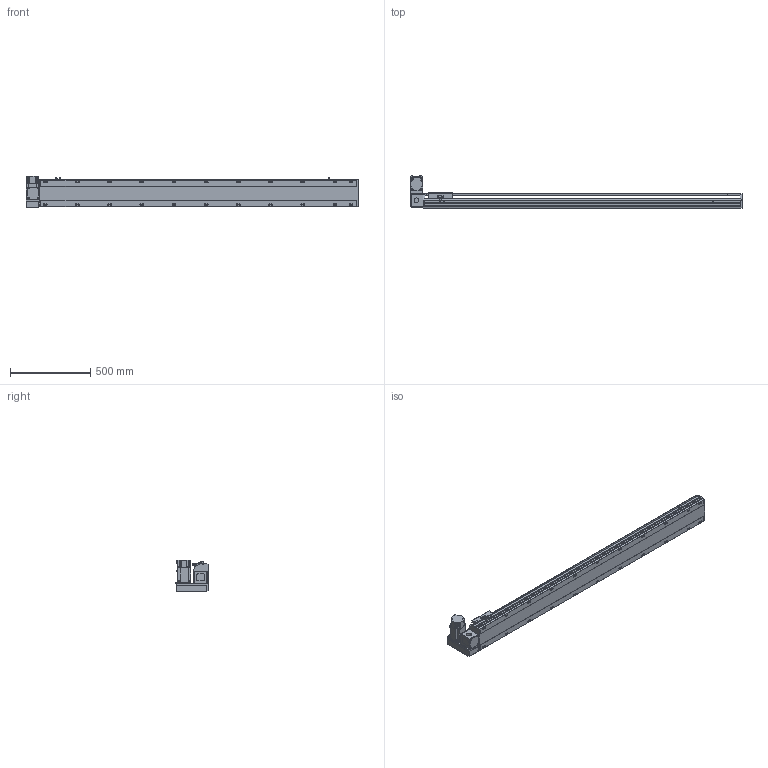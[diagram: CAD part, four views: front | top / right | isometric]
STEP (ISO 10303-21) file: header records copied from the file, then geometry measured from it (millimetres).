
FILE_DESCRIPTION( ( 'STEP AP214' ), '1' );
FILE_NAME( 'x:/temp/worker_4/temp/exporttempdir_2248_406_YVJtz/format_0/PBS170-P40-S1700-LU-T75-C1-N(0).stp', '2022-06-07T08:16:21', ( 'License CC BY-ND 4.0' ), ( 'CADENAS' ), ' ', 'PARTsolutions', ' ' );
FILE_SCHEMA( ( 'AUTOMOTIVE_DESIGN { 1 0 10303 214 1 1 1 1 }' ) );
Length unit declared in the file: millimetre
Products named in the file (7): PBS170-P40-S1700-LU-T75-C1-N(0); _PBS170-S1700()_body; _PBS170T-LU_motors; _T75-p1; _PBS170_sliser; _PBS170_plant; _PBS170_sensor
Assembly tree (8 placements, depth 2):
  PBS170-P40-S1700-LU-T75-C1-N(0)
    _PBS170-S1700()_body
    _PBS170T-LU_motors
    _T75-p1
    _PBS170_sliser
    _PBS170_plant
    _PBS170_sensor  x3
Bounding box: 2063 x 206 x 197.3 mm (x, y, z)
Volume: 15977053.4 mm3; surface area: 2042360.4 mm2
Topology: 8 solids, 8 shells, 1130 faces, 2995 edges, 1952 vertices
Faces by surface type: plane 705, cylinder 363, cone 52, sphere 8, torus 2
Full cylindrical faces by diameter (mm): 3.242 x4, 4 x2, 4.4 x4, 4.5 x6, 4.917 x4, 6 x9, 6.647 x30, 7 x2, 7.5 x4, 8 x8, 8.5 x22, 10 x4, 10.5 x22, 11 x2, 30 x2, 40 x1, 70 x1
Entity records: 41666 total; most frequent: CARTESIAN_POINT 6725, DIRECTION 5510, ORIENTED_EDGE 5208, EDGE_CURVE 2604, AXIS2_PLACEMENT_3D 1927, VERTEX_POINT 1802, LINE 1656, VECTOR 1656
